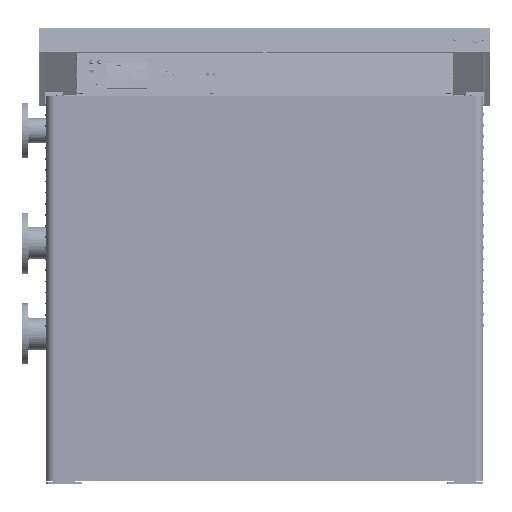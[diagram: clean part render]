
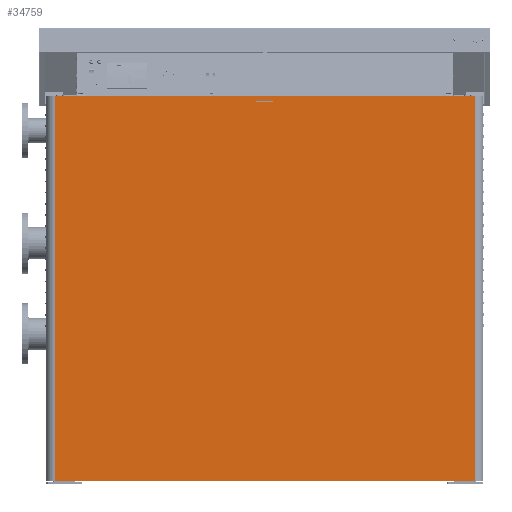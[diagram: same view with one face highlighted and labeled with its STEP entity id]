
A CAD part, front view. The second image highlights one B-rep face of the part: STEP entity #34759.
In plain terms, the highlighted planar face has unit normal (0, -1, 0).
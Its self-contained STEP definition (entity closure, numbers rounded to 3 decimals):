
#34759 = ADVANCED_FACE( '', ( #69235, #69236 ), #69237, .T. );
#69235 = FACE_BOUND( '', #111325, .T. );
#69236 = FACE_OUTER_BOUND( '', #111326, .T. );
#69237 = PLANE( '', #111327 );
#111325 = EDGE_LOOP( '', ( #198179, #198180, #198181, #198182 ) );
#111326 = EDGE_LOOP( '', ( #198183, #198184, #198185, #198186, #198187, #198188, #198189, #198190 ) );
#111327 = AXIS2_PLACEMENT_3D( '', #198191, #198192, #198193 );
#198179 = ORIENTED_EDGE( '', *, *, #270871, .F. );
#198180 = ORIENTED_EDGE( '', *, *, #253632, .F. );
#198181 = ORIENTED_EDGE( '', *, *, #264613, .F. );
#198182 = ORIENTED_EDGE( '', *, *, #267761, .F. );
#198183 = ORIENTED_EDGE( '', *, *, #245115, .F. );
#198184 = ORIENTED_EDGE( '', *, *, #265474, .T. );
#198185 = ORIENTED_EDGE( '', *, *, #270872, .F. );
#198186 = ORIENTED_EDGE( '', *, *, #270316, .T. );
#198187 = ORIENTED_EDGE( '', *, *, #254739, .F. );
#198188 = ORIENTED_EDGE( '', *, *, #270873, .T. );
#198189 = ORIENTED_EDGE( '', *, *, #241347, .F. );
#198190 = ORIENTED_EDGE( '', *, *, #262033, .T. );
#198191 = CARTESIAN_POINT( '', ( -787.5, 0., -694. ) );
#198192 = DIRECTION( '', ( 0., -1., 0. ) );
#198193 = DIRECTION( '', ( 0., 0., -1. ) );
#241347 = EDGE_CURVE( '', #286059, #286061, #286062, .T. );
#245115 = EDGE_CURVE( '', #292783, #292779, #292785, .T. );
#253632 = EDGE_CURVE( '', #306836, #306838, #306839, .T. );
#254739 = EDGE_CURVE( '', #308606, #308604, #308608, .T. );
#262033 = EDGE_CURVE( '', #286059, #292779, #319529, .T. );
#264613 = EDGE_CURVE( '', #323215, #306836, #323217, .T. );
#265474 = EDGE_CURVE( '', #292783, #295461, #324391, .T. );
#267761 = EDGE_CURVE( '', #327450, #323215, #327452, .T. );
#270316 = EDGE_CURVE( '', #321284, #308604, #330717, .T. );
#270871 = EDGE_CURVE( '', #306838, #327450, #331402, .T. );
#270872 = EDGE_CURVE( '', #321284, #295461, #331403, .T. );
#270873 = EDGE_CURVE( '', #308606, #286061, #331404, .T. );
#286059 = VERTEX_POINT( '', #349166 );
#286061 = VERTEX_POINT( '', #349169 );
#286062 = LINE( '', #349170, #349171 );
#292779 = VERTEX_POINT( '', #360821 );
#292783 = VERTEX_POINT( '', #360827 );
#292785 = LINE( '', #360830, #360831 );
#295461 = VERTEX_POINT( '', #366666 );
#306836 = VERTEX_POINT( '', #387272 );
#306838 = VERTEX_POINT( '', #387275 );
#306839 = CIRCLE( '', #387276, 3. );
#308604 = VERTEX_POINT( '', #390857 );
#308606 = VERTEX_POINT( '', #390860 );
#308608 = LINE( '', #390863, #390864 );
#319529 = LINE( '', #410160, #410161 );
#321284 = VERTEX_POINT( '', #413300 );
#323215 = VERTEX_POINT( '', #417124 );
#323217 = LINE( '', #417127, #417128 );
#324391 = LINE( '', #419252, #419253 );
#327450 = VERTEX_POINT( '', #425180 );
#327452 = CIRCLE( '', #425183, 3. );
#330717 = LINE( '', #430903, #430904 );
#331402 = LINE( '', #432007, #432008 );
#331403 = LINE( '', #432009, #432010 );
#331404 = LINE( '', #432011, #432012 );
#349166 = CARTESIAN_POINT( '', ( 756.498, 0., 692.998 ) );
#349169 = CARTESIAN_POINT( '', ( 756.5, 0., 692.998 ) );
#349170 = CARTESIAN_POINT( '', ( 756.5, 0., 692.998 ) );
#349171 = VECTOR( '', #450901, 1000. );
#360821 = CARTESIAN_POINT( '', ( -756.498, 0., 692.998 ) );
#360827 = CARTESIAN_POINT( '', ( -756.5, 0., 692.998 ) );
#360830 = CARTESIAN_POINT( '', ( 756.5, 0., 692.998 ) );
#360831 = VECTOR( '', #455251, 1000. );
#366666 = CARTESIAN_POINT( '', ( -756.5, 0., -692.998 ) );
#387272 = CARTESIAN_POINT( '', ( -28., 0., 677. ) );
#387275 = CARTESIAN_POINT( '', ( -28., 0., 671. ) );
#387276 = AXIS2_PLACEMENT_3D( '', #464153, #464154, #464155 );
#390857 = CARTESIAN_POINT( '', ( 756.498, 0., -692.998 ) );
#390860 = CARTESIAN_POINT( '', ( 756.5, 0., -692.998 ) );
#390863 = CARTESIAN_POINT( '', ( -756.5, 0., -692.998 ) );
#390864 = VECTOR( '', #465277, 1000. );
#410160 = CARTESIAN_POINT( '', ( 756.498, 0., 692.998 ) );
#410161 = VECTOR( '', #472762, 1000. );
#413300 = CARTESIAN_POINT( '', ( -756.498, 0., -692.998 ) );
#417124 = CARTESIAN_POINT( '', ( 28., 0., 677. ) );
#417127 = CARTESIAN_POINT( '', ( -28., 0., 677. ) );
#417128 = VECTOR( '', #475513, 1000. );
#419252 = CARTESIAN_POINT( '', ( -756.5, 0., 694. ) );
#419253 = VECTOR( '', #476255, 1000. );
#425180 = CARTESIAN_POINT( '', ( 28., 0., 671. ) );
#425183 = AXIS2_PLACEMENT_3D( '', #478318, #478319, #478320 );
#430903 = CARTESIAN_POINT( '', ( -756.498, 0., -692.998 ) );
#430904 = VECTOR( '', #480690, 1000. );
#432007 = CARTESIAN_POINT( '', ( 28., 0., 671. ) );
#432008 = VECTOR( '', #481178, 1000. );
#432009 = CARTESIAN_POINT( '', ( -756.5, 0., -692.998 ) );
#432010 = VECTOR( '', #481179, 1000. );
#432011 = CARTESIAN_POINT( '', ( 756.5, 0., -694. ) );
#432012 = VECTOR( '', #481180, 1000. );
#450901 = DIRECTION( '', ( 1., 0., 0. ) );
#455251 = DIRECTION( '', ( 1., 0., 0. ) );
#464153 = CARTESIAN_POINT( '', ( -28., 0., 674. ) );
#464154 = DIRECTION( '', ( 0., -1., 0. ) );
#464155 = DIRECTION( '', ( 1., 0., 0. ) );
#465277 = DIRECTION( '', ( -1., 0., 0. ) );
#472762 = DIRECTION( '', ( -1., 0., 0. ) );
#475513 = DIRECTION( '', ( -1., 0., 0. ) );
#476255 = DIRECTION( '', ( 0., 0., -1. ) );
#478318 = CARTESIAN_POINT( '', ( 28., 0., 674. ) );
#478319 = DIRECTION( '', ( 0., -1., 0. ) );
#478320 = DIRECTION( '', ( -1., 0., 0. ) );
#480690 = DIRECTION( '', ( 1., 0., 0. ) );
#481178 = DIRECTION( '', ( 1., 0., 0. ) );
#481179 = DIRECTION( '', ( -1., 0., 0. ) );
#481180 = DIRECTION( '', ( 0., 0., 1. ) );
